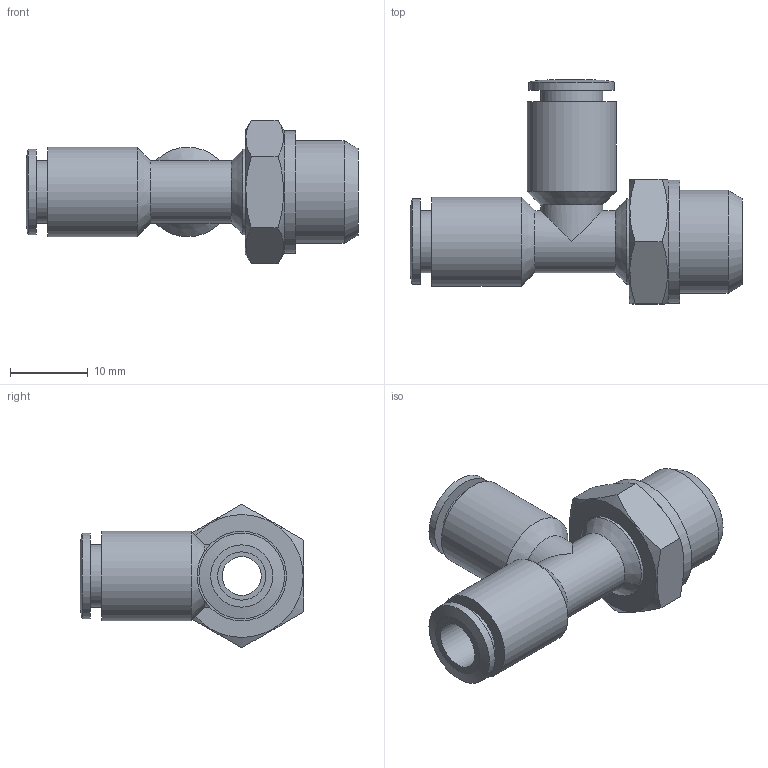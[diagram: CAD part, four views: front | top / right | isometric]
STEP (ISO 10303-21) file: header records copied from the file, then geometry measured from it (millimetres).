
FILE_DESCRIPTION((''),'2;1');
FILE_NAME('C:\Documents and Settings\rivolro1\Documenti\copia di Raccordi\PLASTICA\T21XXXX\T210614.stp','2007-11-02T08:39:22',('Rivolro1'),(''),'Autodesk Inventor 2008','Autodesk Inventor 2008','');
FILE_SCHEMA(('AUTOMOTIVE_DESIGN { 1 0 10303 214 1 1 1 1 }'));
Length unit declared in the file: millimetre
Products named in the file (1): T210614
Bounding box: 42.7 x 28.8 x 18.48 mm (x, y, z)
Volume: 4726.3 mm3; surface area: 3972.8 mm2
Topology: 1 solids, 1 shells, 43 faces, 86 edges, 56 vertices
Faces by surface type: plane 16, cylinder 13, cone 8, bspline 6
Full cylindrical faces by diameter (mm): 8 x4, 11 x3, 11.2 x1, 11.5 x2, 13.2 x1, 15.8 x1
Entity records: 1139 total; most frequent: CARTESIAN_POINT 308, DIRECTION 154, ORIENTED_EDGE 112, EDGE_LOOP 80, AXIS2_PLACEMENT_3D 74, EDGE_CURVE 56, VERTEX_POINT 50, FACE_OUTER_BOUND 43
